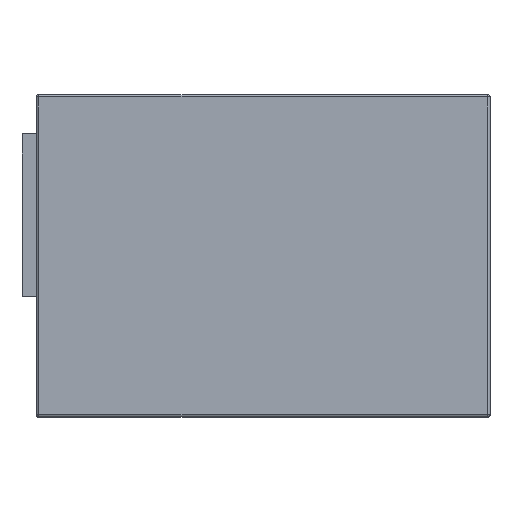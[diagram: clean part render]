
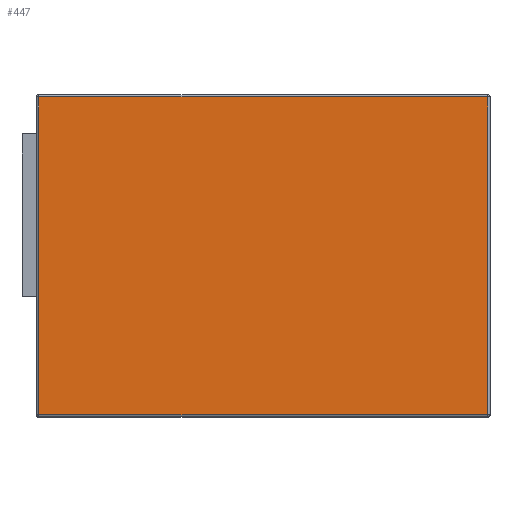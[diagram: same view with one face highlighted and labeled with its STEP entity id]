
A CAD part, top view. The second image highlights one B-rep face of the part: STEP entity #447.
In plain terms, the highlighted planar face has unit normal (0, 0, 1).
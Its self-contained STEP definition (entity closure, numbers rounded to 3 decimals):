
#447=ADVANCED_FACE('',(#911),#912,.F.);
#911=FACE_OUTER_BOUND('',#1373,.T.);
#912=PLANE('',#1374);
#1373=EDGE_LOOP('',(#2658,#2659,#2660,#2661));
#1374=AXIS2_PLACEMENT_3D('',#2662,#2663,#2664);
#2658=ORIENTED_EDGE('',*,*,#3158,.T.);
#2659=ORIENTED_EDGE('',*,*,#3208,.T.);
#2660=ORIENTED_EDGE('',*,*,#3186,.F.);
#2661=ORIENTED_EDGE('',*,*,#3216,.F.);
#2662=CARTESIAN_POINT('',(0.,0.0,277.0));
#2663=DIRECTION('',(0.,0.0,-1.0));
#2664=DIRECTION('',(-1.0,0.0,0.));
#3158=EDGE_CURVE('',#3875,#3881,#3883,.T.);
#3186=EDGE_CURVE('',#3925,#3919,#3927,.T.);
#3208=EDGE_CURVE('',#3881,#3919,#3952,.T.);
#3216=EDGE_CURVE('',#3875,#3925,#3960,.T.);
#3875=VERTEX_POINT('',#4824);
#3881=VERTEX_POINT('',#4831);
#3883=LINE('',#4833,#4834);
#3919=VERTEX_POINT('',#4876);
#3925=VERTEX_POINT('',#4883);
#3927=LINE('',#4885,#4886);
#3952=LINE('',#4917,#4918);
#3960=LINE('',#4929,#4930);
#4824=CARTESIAN_POINT('',(-470.0,-332.5,277.0));
#4831=CARTESIAN_POINT('',(470.0,-332.5,277.0));
#4833=CARTESIAN_POINT('',(0.,-332.5,277.0));
#4834=VECTOR('',#5508,1.0);
#4876=CARTESIAN_POINT('',(470.0,332.5,277.0));
#4883=CARTESIAN_POINT('',(-470.0,332.5,277.0));
#4885=CARTESIAN_POINT('',(0.,332.5,277.0));
#4886=VECTOR('',#5555,1.0);
#4917=CARTESIAN_POINT('',(470.0,0.,277.0));
#4918=VECTOR('',#5583,1.0);
#4929=CARTESIAN_POINT('',(-470.0,0.0,277.0));
#4930=VECTOR('',#5587,1.0);
#5508=DIRECTION('',(1.0,0.0,0.));
#5555=DIRECTION('',(1.0,0.0,0.));
#5583=DIRECTION('',(0.0,1.0,0.));
#5587=DIRECTION('',(0.,1.0,0.));
